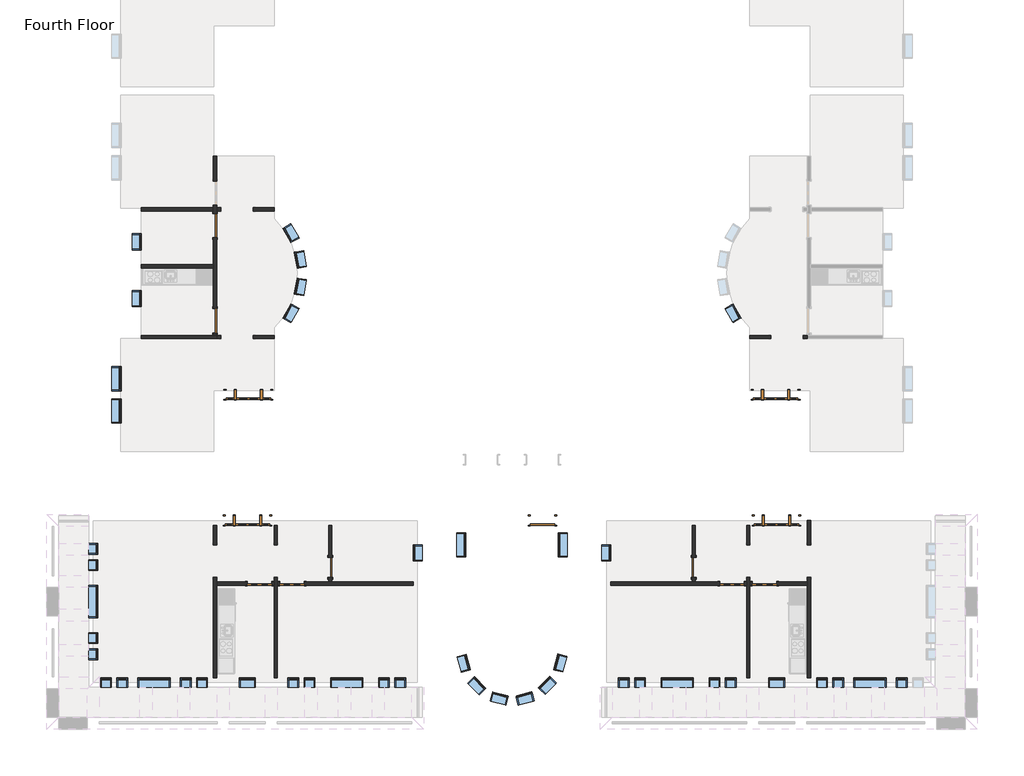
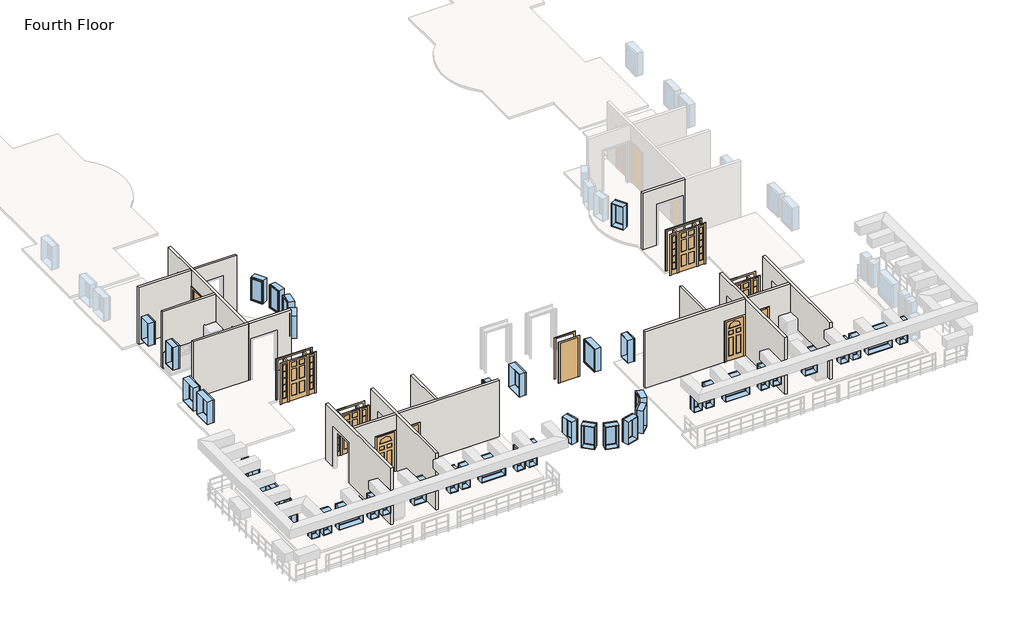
# One storey, part 1 of 5: 45 windows, 17 walls, 13 doors.
"""IFC4 building model written with IfcOpenShell, lengths in millimetres."""

from ifc_helpers import new_model, si_unit, frame, origin, place, context, project, spatial, polyline, outline, extrude, faceted_brep, transform, mapped, element, save
from components import door_829da954, door_2e3b4da2, door_4d6c7550, door_e36758a9, door_a1797ceb, door_a3eb833a, door_cc5399a4, door_dba5aa2e, door_ffdb1193, window_da97879f, window_d61ef850, window_60baf983, window_ed80354a, window_0e2fc6ce, window_6eb97611, window_d89bf842

model = new_model("IFC4")

# Units and contexts
model_context = context("Model", 3, world=origin())
ifc_project = project(units=[si_unit("LENGTHUNIT", "METRE", prefix="MILLI")], contexts=[model_context])

# Site, building, storey
site = spatial("IfcSite", under=ifc_project)
building = spatial("IfcBuilding", under=site)
storey = spatial("IfcBuildingStorey", under=building, Name="Fourth Floor", Elevation=9144.0)

# Doors
placement = place(None, origin())
door_shape = door_829da954(model_context)
element("IfcDoor", 1, ObjectType="Single-Decorative 2 : 36\" x 84\"", at=placement, inside=storey, context=model_context, shape_type="MappedRepresentation", body=[
    mapped(door_shape, transform((-6669.0589563, -30331.8808133, 9144.0), x_axis=(1.0, 0.0, 0.0), y_axis=(0.0, 1.0, 0.0), z_axis=(0.0, 0.0, 1.0))),
])
element("IfcDoor", 2, ObjectType="Single-Decorative 2 : 36\" x 84\"", at=placement, inside=storey, context=model_context, shape_type="MappedRepresentation", body=[
    mapped(door_shape, transform((-24420.4839563, -30331.8808133, 9144.0), x_axis=(1.0, 0.0, 0.0), y_axis=(0.0, 1.0, 0.0), z_axis=(0.0, 0.0, 1.0))),
])
door_2_shape = door_2e3b4da2(model_context)
element("IfcDoor", 3, ObjectType="Single-Decorative 2 : 36\" x 84\"", at=placement, inside=storey, context=model_context, shape_type="MappedRepresentation", body=[
    mapped(door_2_shape, transform((-5449.8589563, -30331.8808133, 9144.0), x_axis=(-1.0, 0.0, 0.0), y_axis=(0.0, -1.0, 0.0), z_axis=(0.0, 0.0, 1.0))),
])
element("IfcDoor", 4, ObjectType="Single-Decorative 2 : 36\" x 84\"", at=placement, inside=storey, context=model_context, shape_type="MappedRepresentation", body=[
    mapped(door_2_shape, transform((-23201.2839563, -30331.8808133, 9144.0), x_axis=(-1.0, 0.0, 0.0), y_axis=(0.0, -1.0, 0.0), z_axis=(0.0, 0.0, 1.0))),
])
door_3_shape = door_4d6c7550(model_context)
element("IfcDoor", 5, ObjectType="Single-Flush : 30\" x 84\"", at=placement, inside=storey, context=model_context, shape_type="MappedRepresentation", body=[
    mapped(door_3_shape, transform((-21764.5964563, -29722.2808133, 9144.0), x_axis=(0.0, -1.0, 0.0), y_axis=(1.0, 0.0, 0.0), z_axis=(0.0, 0.0, 1.0))),
])
door_4_shape = door_e36758a9(model_context)
element("IfcDoor", 6, ObjectType="Single-Flush : 30\" x 84\"", at=placement, inside=storey, context=model_context, shape_type="MappedRepresentation", body=[
    mapped(door_4_shape, transform((-8105.7464563, -29722.2808133, 9144.0), x_axis=(0.0, -1.0, 0.0), y_axis=(1.0, 0.0, 0.0), z_axis=(0.0, 0.0, 1.0))),
])
door_5_shape = door_a1797ceb(model_context)
element("IfcDoor", 7, ObjectType="Single-Flush : 36\" x 84\"", at=placement, inside=storey, context=model_context, shape_type="MappedRepresentation", body=[
    mapped(door_5_shape, transform((-26096.8839563, -20451.2808133, 9144.0), x_axis=(0.0, -1.0, 0.0), y_axis=(1.0, 0.0, 0.0), z_axis=(0.0, 0.0, 1.0))),
])
door_6_shape = door_a3eb833a(model_context)
element("IfcDoor", 8, ObjectType="Single-Flush : 36\" x 84\"", at=placement, inside=storey, context=model_context, shape_type="MappedRepresentation", body=[
    mapped(door_6_shape, transform((-26096.8839563, -16873.0558133, 9144.0), x_axis=(0.0, 1.0, 0.0), y_axis=(-1.0, 0.0, 0.0), z_axis=(0.0, 0.0, 1.0))),
])
door_7_shape = door_cc5399a4(model_context)
element("IfcDoor", 9, ObjectType="Single-Flush : 36\" x 84\"", at=placement, inside=storey, context=model_context, shape_type="MappedRepresentation", body=[
    mapped(door_7_shape, transform((-13792.1714563, -27958.5683133, 9144.0), x_axis=(1.0, 0.0, 0.0), y_axis=(0.0, 1.0, 0.0), z_axis=(0.0, 0.0, 1.0))),
])
door_8_shape = door_dba5aa2e(model_context)
element("IfcDoor", 10, ObjectType="Single-Raised Panel with Sidelights : 36\" x 84\"", at=placement, inside=storey, context=model_context, shape_type="MappedRepresentation", body=[
    mapped(door_8_shape, transform((-24877.6839563, -27958.5683133, 9144.0), x_axis=(1.0, 0.0, 0.0), y_axis=(0.0, 1.0, 0.0), z_axis=(0.0, 0.0, 1.0))),
])
element("IfcDoor", 11, ObjectType="Single-Raised Panel with Sidelights : 36\" x 84\"", at=placement, inside=storey, context=model_context, shape_type="MappedRepresentation", body=[
    mapped(door_8_shape, transform((-24841.1714563, -23234.1683133, 9144.0), x_axis=(1.0, 0.0, 0.0), y_axis=(0.0, 1.0, 0.0), z_axis=(0.0, 0.0, 1.0))),
])
door_9_shape = door_ffdb1193(model_context)
element("IfcDoor", 12, ObjectType="Single-Raised Panel with Sidelights : 36\" x 84\"", at=placement, inside=storey, context=model_context, shape_type="MappedRepresentation", body=[
    mapped(door_9_shape, transform((-4992.6589563, -27958.5683133, 9144.0), x_axis=(-1.0, 0.0, 0.0), y_axis=(0.0, -1.0, 0.0), z_axis=(0.0, 0.0, 1.0))),
])
element("IfcDoor", 13, ObjectType="Single-Raised Panel with Sidelights : 36\" x 84\"", at=placement, inside=storey, context=model_context, shape_type="MappedRepresentation", body=[
    mapped(door_9_shape, transform((-5029.1714563, -23234.1683133, 9144.0), x_axis=(-1.0, 0.0, 0.0), y_axis=(0.0, -1.0, 0.0), z_axis=(0.0, 0.0, 1.0))),
])

# Walls
element("IfcWall", 14, ObjectType="Interior - 5\" Partition (2-hr)", at=placement, inside=storey, context=model_context, shape_type="Brep", body=[
    faceted_brep([(-3709.9589563, -33878.3558133, 9144.0), (-3709.9589563, -30092.1683133, 9144.0), (-3709.9589563, -30092.1683133, 11277.6), (-3709.9589563, -28872.9683133, 11277.6), (-3709.9589563, -28872.9683133, 9144.0), (-3709.9589563, -27958.5683133, 9144.0), (-3709.9589563, -27958.5683133, 12192.0), (-3709.9589563, -33878.3558133, 12192.0), (-3836.9589563, -30092.1683133, 11277.6), (-3836.9589563, -30092.1683133, 9144.0), (-3836.9589563, -30268.3808133, 9144.0), (-3836.9589563, -30395.3808133, 9144.0), (-3836.9589563, -33878.3558133, 9144.0), (-3836.9589563, -33878.3558133, 12192.0), (-3836.9589563, -30395.3808133, 12192.0), (-3836.9589563, -30268.3808133, 12192.0), (-3836.9589563, -27958.5683133, 12192.0), (-3836.9589563, -27958.5683133, 9144.0), (-3836.9589563, -28872.9683133, 9144.0), (-3836.9589563, -28872.9683133, 11277.6)], [[[0, 1, 2, 3, 4, 5, 6, 7]], [[8, 9, 10, 11, 12, 13, 14, 15, 16, 17, 18, 19]], [[12, 11, 10, 9, 1, 0]], [[18, 17, 5, 4]], [[6, 5, 17, 16]], [[7, 6, 16, 15, 14, 13]], [[0, 7, 13, 12]], [[4, 3, 19, 18]], [[2, 1, 9, 8]], [[3, 2, 8, 19]]]),
])
element("IfcWall", 15, ObjectType="Interior - 5\" Partition (2-hr)", at=placement, inside=storey, context=model_context, shape_type="Brep", body=[
    faceted_brep([(-5995.9589563, -28872.9683133, 11277.6), (-5995.9589563, -28872.9683133, 9144.0), (-5995.9589563, -28134.7808133, 9144.0), (-5995.9589563, -28134.7808133, 12192.0), (-5995.9589563, -30268.3808133, 12192.0), (-5995.9589563, -30395.3808133, 12192.0), (-5995.9589563, -33878.3558133, 12192.0), (-5995.9589563, -33878.3558133, 9144.0), (-5995.9589563, -30395.3808133, 9144.0), (-5995.9589563, -30268.3808133, 9144.0), (-5995.9589563, -30092.1683133, 9144.0), (-5995.9589563, -30092.1683133, 11277.6), (-6122.9589563, -28134.7808133, 9144.0), (-6122.9589563, -28872.9683133, 9144.0), (-6122.9589563, -28872.9683133, 11277.6), (-6122.9589563, -30092.1683133, 11277.6), (-6122.9589563, -30092.1683133, 9144.0), (-6122.9589563, -30268.3808133, 9144.0), (-6122.9589563, -30395.3808133, 9144.0), (-6122.9589563, -33878.3558133, 9144.0), (-6122.9589563, -33878.3558133, 12192.0), (-6122.9589563, -30395.3808133, 12192.0), (-6122.9589563, -30268.3808133, 12192.0), (-6122.9589563, -28134.7808133, 12192.0)], [[[0, 1, 2, 3, 4, 5, 6, 7, 8, 9, 10, 11]], [[12, 13, 14, 15, 16, 17, 18, 19, 20, 21, 22, 23]], [[2, 1, 13, 12]], [[10, 9, 8, 7, 19, 18, 17, 16]], [[6, 5, 4, 3, 23, 22, 21, 20]], [[7, 6, 20, 19]], [[3, 2, 12, 23]], [[16, 15, 11, 10]], [[14, 13, 1, 0]], [[15, 14, 0, 11]]]),
])
element("IfcWall", 16, ObjectType="Interior - 5\" Partition (2-hr)", at=placement, inside=storey, context=model_context, shape_type="Brep", body=[
    faceted_brep([(-6211.8589563, -30395.3808133, 11277.6), (-6211.8589563, -30395.3808133, 9144.0), (-6122.9589563, -30395.3808133, 9144.0), (-6122.9589563, -30395.3808133, 12192.0), (-11217.2464563, -30395.3808133, 12192.0), (-11217.2464563, -30395.3808133, 9144.0), (-7126.2589563, -30395.3808133, 9144.0), (-7126.2589563, -30395.3808133, 11277.6), (-6122.9589563, -30268.3808133, 9144.0), (-6211.8589563, -30268.3808133, 9144.0), (-6211.8589563, -30268.3808133, 11277.6), (-7126.2589563, -30268.3808133, 11277.6), (-7126.2589563, -30268.3808133, 9144.0), (-8042.2464563, -30268.3808133, 9144.0), (-8169.2464563, -30268.3808133, 9144.0), (-11217.2464563, -30268.3808133, 9144.0), (-11217.2464563, -30268.3808133, 12192.0), (-8169.2464563, -30268.3808133, 12192.0), (-8042.2464563, -30268.3808133, 12192.0), (-6122.9589563, -30268.3808133, 12192.0)], [[[0, 1, 2, 3, 4, 5, 6, 7]], [[8, 9, 10, 11, 12, 13, 14, 15, 16, 17, 18, 19]], [[2, 1, 9, 8]], [[6, 5, 15, 14, 13, 12]], [[4, 3, 19, 18, 17, 16]], [[3, 2, 8, 19]], [[5, 4, 16, 15]], [[10, 9, 1, 0]], [[11, 10, 0, 7]], [[12, 11, 7, 6]]]),
])
element("IfcWall", 17, ObjectType="Interior - 5\" Partition (2-hr)", at=placement, inside=storey, context=model_context, shape_type="SweptSolid", body=[
    extrude(outline(polyline([(-30103.2808133, 11277.6), (-30103.2808133, 9144.0), (-30268.3808133, 9144.0), (-30268.3808133, 12192.0), (-28134.7808133, 12192.0), (-28134.7808133, 9144.0), (-29341.2808133, 9144.0), (-29341.2808133, 11277.6), (-30103.2808133, 11277.6)])), frame((-8169.2464563, 0.0, 0.0), z_axis=(1.0, 0.0, 0.0), x_axis=(0.0, 1.0, 0.0)), (0.0, 0.0, 1.0), 127.0),
])
element("IfcWall", 18, ObjectType="Interior - 5\" Partition (2-hr)", at=placement, inside=storey, context=model_context, shape_type="SweptSolid", body=[
    extrude(outline(polyline([(9144.0, -5995.9589563), (9144.0, -5907.0589563), (11277.6, -5907.0589563), (11277.6, -4992.6589563), (9144.0, -4992.6589563), (9144.0, -3836.9589563), (12192.0, -3836.9589563), (12192.0, -5995.9589563), (9144.0, -5995.9589563)])), frame((0.0, -30395.3808133, 0.0), z_axis=(0.0, 1.0, 0.0), x_axis=(0.0, 0.0, 1.0)), (0.0, 0.0, 1.0), 127.0),
])
element("IfcWall", 19, ObjectType="Interior - 5\" Partition (2-hr)", at=placement, inside=storey, context=model_context, shape_type="SweptSolid", body=[
    extrude(outline(polyline([(11277.6, -4002.0589563), (9144.0, -4002.0589563), (9144.0, -3836.9589563), (12192.0, -3836.9589563), (12192.0, -5995.9589563), (9144.0, -5995.9589563), (9144.0, -5221.2589563), (11277.6, -5221.2589563), (11277.6, -4002.0589563)])), frame((0.0, -21124.3808133, 0.0), z_axis=(0.0, 1.0, 0.0), x_axis=(0.0, 0.0, 1.0)), (0.0, 0.0, 1.0), 127.0),
])
element("IfcWall", 20, ObjectType="Interior - 5\" Partition (2-hr)", at=placement, inside=storey, context=model_context, shape_type="Brep", body=[
    faceted_brep([(-26033.3839563, -33878.3558133, 9144.0), (-26033.3839563, -30395.3808133, 9144.0), (-26033.3839563, -30268.3808133, 9144.0), (-26033.3839563, -30092.1683133, 9144.0), (-26033.3839563, -30092.1683133, 11277.6), (-26033.3839563, -28872.9683133, 11277.6), (-26033.3839563, -28872.9683133, 9144.0), (-26033.3839563, -28134.7808133, 9144.0), (-26033.3839563, -28134.7808133, 12192.0), (-26033.3839563, -30268.3808133, 12192.0), (-26033.3839563, -30395.3808133, 12192.0), (-26033.3839563, -33878.3558133, 12192.0), (-26160.3839563, -30092.1683133, 11277.6), (-26160.3839563, -30092.1683133, 9144.0), (-26160.3839563, -33878.3558133, 9144.0), (-26160.3839563, -33878.3558133, 12192.0), (-26160.3839563, -28134.7808133, 12192.0), (-26160.3839563, -28134.7808133, 9144.0), (-26160.3839563, -28872.9683133, 9144.0), (-26160.3839563, -28872.9683133, 11277.6)], [[[0, 1, 2, 3, 4, 5, 6, 7, 8, 9, 10, 11]], [[12, 13, 14, 15, 16, 17, 18, 19]], [[14, 13, 3, 2, 1, 0]], [[18, 17, 7, 6]], [[11, 10, 9, 8, 16, 15]], [[0, 11, 15, 14]], [[8, 7, 17, 16]], [[6, 5, 19, 18]], [[4, 3, 13, 12]], [[5, 4, 12, 19]]]),
])
element("IfcWall", 21, ObjectType="Interior - 5\" Partition (2-hr)", at=placement, inside=storey, context=model_context, shape_type="Brep", body=[
    faceted_brep([(-23747.3839563, -28872.9683133, 11277.6), (-23747.3839563, -28872.9683133, 9144.0), (-23747.3839563, -28134.7808133, 9144.0), (-23747.3839563, -28134.7808133, 12192.0), (-23747.3839563, -30268.3808133, 12192.0), (-23747.3839563, -30395.3808133, 12192.0), (-23747.3839563, -33878.3558133, 12192.0), (-23747.3839563, -33878.3558133, 9144.0), (-23747.3839563, -30395.3808133, 9144.0), (-23747.3839563, -30268.3808133, 9144.0), (-23747.3839563, -30092.1683133, 9144.0), (-23747.3839563, -30092.1683133, 11277.6), (-23874.3839563, -28134.7808133, 9144.0), (-23874.3839563, -28872.9683133, 9144.0), (-23874.3839563, -28872.9683133, 11277.6), (-23874.3839563, -30092.1683133, 11277.6), (-23874.3839563, -30092.1683133, 9144.0), (-23874.3839563, -30268.3808133, 9144.0), (-23874.3839563, -30395.3808133, 9144.0), (-23874.3839563, -33878.3558133, 9144.0), (-23874.3839563, -33878.3558133, 12192.0), (-23874.3839563, -30395.3808133, 12192.0), (-23874.3839563, -30268.3808133, 12192.0), (-23874.3839563, -28134.7808133, 12192.0)], [[[0, 1, 2, 3, 4, 5, 6, 7, 8, 9, 10, 11]], [[12, 13, 14, 15, 16, 17, 18, 19, 20, 21, 22, 23]], [[2, 1, 13, 12]], [[10, 9, 8, 7, 19, 18, 17, 16]], [[6, 5, 4, 3, 23, 22, 21, 20]], [[7, 6, 20, 19]], [[3, 2, 12, 23]], [[16, 15, 11, 10]], [[14, 13, 1, 0]], [[15, 14, 0, 11]]]),
])
element("IfcWall", 22, ObjectType="Interior - 5\" Partition (2-hr)", at=placement, inside=storey, context=model_context, shape_type="Brep", body=[
    faceted_brep([(-23658.4839563, -30268.3808133, 11277.6), (-23658.4839563, -30268.3808133, 9144.0), (-23747.3839563, -30268.3808133, 9144.0), (-23747.3839563, -30268.3808133, 12192.0), (-21828.0964563, -30268.3808133, 12192.0), (-21701.0964563, -30268.3808133, 12192.0), (-18653.0964563, -30268.3808133, 12192.0), (-18653.0964563, -30268.3808133, 9144.0), (-21701.0964563, -30268.3808133, 9144.0), (-21828.0964563, -30268.3808133, 9144.0), (-22744.0839563, -30268.3808133, 9144.0), (-22744.0839563, -30268.3808133, 11277.6), (-23747.3839563, -30395.3808133, 9144.0), (-23658.4839563, -30395.3808133, 9144.0), (-23658.4839563, -30395.3808133, 11277.6), (-22744.0839563, -30395.3808133, 11277.6), (-22744.0839563, -30395.3808133, 9144.0), (-18653.0964563, -30395.3808133, 9144.0), (-18653.0964563, -30395.3808133, 12192.0), (-23747.3839563, -30395.3808133, 12192.0)], [[[0, 1, 2, 3, 4, 5, 6, 7, 8, 9, 10, 11]], [[12, 13, 14, 15, 16, 17, 18, 19]], [[2, 1, 13, 12]], [[10, 9, 8, 7, 17, 16]], [[6, 5, 4, 3, 19, 18]], [[3, 2, 12, 19]], [[7, 6, 18, 17]], [[14, 13, 1, 0]], [[15, 14, 0, 11]], [[16, 15, 11, 10]]]),
])
element("IfcWall", 23, ObjectType="Interior - 5\" Partition (2-hr)", at=placement, inside=storey, context=model_context, shape_type="SweptSolid", body=[
    extrude(outline(polyline([(-30103.2808133, 11277.6), (-30103.2808133, 9144.0), (-30268.3808133, 9144.0), (-30268.3808133, 12192.0), (-28134.7808133, 12192.0), (-28134.7808133, 9144.0), (-29341.2808133, 9144.0), (-29341.2808133, 11277.6), (-30103.2808133, 11277.6)])), frame((-21828.0964563, 0.0, 0.0), z_axis=(1.0, 0.0, 0.0), x_axis=(0.0, 1.0, 0.0)), (0.0, 0.0, 1.0), 127.0),
])
element("IfcWall", 24, ObjectType="Interior - 5\" Partition (2-hr)", at=placement, inside=storey, context=model_context, shape_type="SweptSolid", body=[
    extrude(outline(polyline([(11277.6, -23963.2839563), (9144.0, -23963.2839563), (9144.0, -23874.3839563), (12192.0, -23874.3839563), (12192.0, -26033.3839563), (9144.0, -26033.3839563), (9144.0, -24877.6839563), (11277.6, -24877.6839563), (11277.6, -23963.2839563)])), frame((0.0, -30395.3808133, 0.0), z_axis=(0.0, 1.0, 0.0), x_axis=(0.0, 0.0, 1.0)), (0.0, 0.0, 1.0), 127.0),
])
element("IfcWall", 25, ObjectType="Interior - 5\" Partition (2-hr)", at=placement, inside=storey, context=model_context, shape_type="Brep", body=[
    faceted_brep([(-28855.9589563, -21124.3808133, 9144.0), (-26033.3839563, -21124.3808133, 9144.0), (-26033.3839563, -21124.3808133, 12192.0), (-28855.9589563, -21124.3808133, 12192.0), (-28855.9589563, -20997.3808133, 9144.0), (-28855.9589563, -20997.3808133, 12192.0), (-26160.3839563, -20997.3808133, 12192.0), (-26033.3839563, -20997.3808133, 12192.0), (-26033.3839563, -20997.3808133, 9144.0), (-26160.3839563, -20997.3808133, 9144.0)], [[[0, 1, 2, 3]], [[4, 5, 6, 7, 8, 9]], [[1, 0, 4, 9, 8]], [[3, 2, 7, 6, 5]], [[2, 1, 8, 7]], [[0, 3, 5, 4]]]),
])
element("IfcWall", 26, ObjectType="Interior - 5\" Partition (2-hr)", at=placement, inside=storey, context=model_context, shape_type="Brep", body=[
    faceted_brep([(-26160.3839563, -16111.0558133, 11277.6), (-26160.3839563, -16111.0558133, 9144.0), (-26160.3839563, -16199.9558133, 9144.0), (-26160.3839563, -16326.9558133, 9144.0), (-26160.3839563, -16415.8558133, 9144.0), (-26160.3839563, -16415.8558133, 11277.6), (-26160.3839563, -17330.2558133, 11277.6), (-26160.3839563, -17330.2558133, 9144.0), (-26160.3839563, -18333.5558133, 9144.0), (-26160.3839563, -18460.5558133, 9144.0), (-26160.3839563, -19994.0808133, 9144.0), (-26160.3839563, -19994.0808133, 11277.6), (-26160.3839563, -20908.4808133, 11277.6), (-26160.3839563, -20908.4808133, 9144.0), (-26160.3839563, -20997.3808133, 9144.0), (-26160.3839563, -20997.3808133, 12192.0), (-26160.3839563, -18460.5558133, 12192.0), (-26160.3839563, -18333.5558133, 12192.0), (-26160.3839563, -16326.9558133, 12192.0), (-26160.3839563, -16199.9558133, 12192.0), (-26160.3839563, -14266.3808133, 12192.0), (-26160.3839563, -14266.3808133, 9144.0), (-26160.3839563, -15196.6558133, 9144.0), (-26160.3839563, -15196.6558133, 11277.6), (-26033.3839563, -16415.8558133, 9144.0), (-26033.3839563, -16326.9558133, 9144.0), (-26033.3839563, -16199.9558133, 9144.0), (-26033.3839563, -16111.0558133, 9144.0), (-26033.3839563, -16111.0558133, 11277.6), (-26033.3839563, -15196.6558133, 11277.6), (-26033.3839563, -15196.6558133, 9144.0), (-26033.3839563, -14266.3808133, 9144.0), (-26033.3839563, -14266.3808133, 12192.0), (-26033.3839563, -16199.9558133, 12192.0), (-26033.3839563, -16326.9558133, 12192.0), (-26033.3839563, -20997.3808133, 12192.0), (-26033.3839563, -20997.3808133, 9144.0), (-26033.3839563, -20908.4808133, 9144.0), (-26033.3839563, -20908.4808133, 11277.6), (-26033.3839563, -19994.0808133, 11277.6), (-26033.3839563, -19994.0808133, 9144.0), (-26033.3839563, -17330.2558133, 9144.0), (-26033.3839563, -17330.2558133, 11277.6), (-26033.3839563, -16415.8558133, 11277.6)], [[[0, 1, 2, 3, 4, 5, 6, 7, 8, 9, 10, 11, 12, 13, 14, 15, 16, 17, 18, 19, 20, 21, 22, 23]], [[24, 25, 26, 27, 28, 29, 30, 31, 32, 33, 34, 35, 36, 37, 38, 39, 40, 41, 42, 43]], [[14, 13, 37, 36]], [[4, 3, 2, 1, 27, 26, 25, 24]], [[41, 40, 10, 9, 8, 7]], [[22, 21, 31, 30]], [[20, 19, 18, 17, 16, 15, 35, 34, 33, 32]], [[15, 14, 36, 35]], [[21, 20, 32, 31]], [[38, 37, 13, 12]], [[39, 38, 12, 11]], [[40, 39, 11, 10]], [[5, 4, 24, 43]], [[6, 5, 43, 42]], [[7, 6, 42, 41]], [[28, 27, 1, 0]], [[29, 28, 0, 23]], [[30, 29, 23, 22]]]),
])
element("IfcWall", 27, ObjectType="Interior - 5\" Partition (2-hr)", at=placement, inside=storey, context=model_context, shape_type="SweptSolid", body=[
    extrude(outline(polyline([(-26160.3839563, -16326.9558133), (-28855.9589563, -16326.9558133), (-28855.9589563, -16199.9558133), (-26160.3839563, -16199.9558133), (-26160.3839563, -16326.9558133)])), frame((0.0, 0.0, 9144.0), z_axis=(0.0, 0.0, 1.0), x_axis=(1.0, 0.0, 0.0)), (0.0, 0.0, 1.0), 3048.0),
])
element("IfcWall", 28, ObjectType="Interior - 5\" Partition (2-hr)", at=placement, inside=storey, context=model_context, shape_type="SweptSolid", body=[
    extrude(outline(polyline([(-28855.9589563, -18333.5558133), (-26160.3839563, -18333.5558133), (-26160.3839563, -18460.5558133), (-28855.9589563, -18460.5558133), (-28855.9589563, -18333.5558133)])), frame((0.0, 0.0, 9144.0), z_axis=(0.0, 0.0, 1.0), x_axis=(1.0, 0.0, 0.0)), (0.0, 0.0, 1.0), 3048.0),
])
element("IfcWall", 29, ObjectType="Interior - 5\" Partition (2-hr)", at=placement, inside=storey, context=model_context, shape_type="SweptSolid", body=[
    extrude(outline(polyline([(11277.6, -24649.0839563), (9144.0, -24649.0839563), (9144.0, -23874.3839563), (12192.0, -23874.3839563), (12192.0, -26033.3839563), (9144.0, -26033.3839563), (9144.0, -25868.2839563), (11277.6, -25868.2839563), (11277.6, -24649.0839563)])), frame((0.0, -16326.9558133, 0.0), z_axis=(0.0, 1.0, 0.0), x_axis=(0.0, 0.0, 1.0)), (0.0, 0.0, 1.0), 127.0),
])
element("IfcWall", 30, ObjectType="Interior - 5\" Partition (2-hr)", at=placement, inside=storey, context=model_context, shape_type="SweptSolid", body=[
    extrude(outline(polyline([(9144.0, -26033.3839563), (9144.0, -25868.2839563), (11277.6, -25868.2839563), (11277.6, -24649.0839563), (9144.0, -24649.0839563), (9144.0, -23874.3839563), (12192.0, -23874.3839563), (12192.0, -26033.3839563), (9144.0, -26033.3839563)])), frame((0.0, -21124.3808133, 0.0), z_axis=(0.0, 1.0, 0.0), x_axis=(0.0, 0.0, 1.0)), (0.0, 0.0, 1.0), 127.0),
])

# Windows
window_shape = window_da97879f(model_context)
element("IfcWindow", 31, ObjectType="Fixed : 16\" x 48\"", at=placement, inside=storey, context=model_context, shape_type="MappedRepresentation", body=[
    mapped(window_shape, transform((-6681.7589563, -34054.5683133, 9144.0), x_axis=(1.0, 0.0, 0.0), y_axis=(0.0, 1.0, 0.0), z_axis=(0.0, 0.0, 1.0))),
])
element("IfcWindow", 32, ObjectType="Fixed : 16\" x 48\"", at=placement, inside=storey, context=model_context, shape_type="MappedRepresentation", body=[
    mapped(window_shape, transform((-7291.3589563, -34054.5683133, 9144.0), x_axis=(1.0, 0.0, 0.0), y_axis=(0.0, 1.0, 0.0), z_axis=(0.0, 0.0, 1.0))),
])
element("IfcWindow", 33, ObjectType="Fixed : 16\" x 48\"", at=placement, inside=storey, context=model_context, shape_type="MappedRepresentation", body=[
    mapped(window_shape, transform((-255.5589563, -34054.5683133, 9144.0), x_axis=(1.0, 0.0, 0.0), y_axis=(0.0, 1.0, 0.0), z_axis=(0.0, 0.0, 1.0))),
])
element("IfcWindow", 34, ObjectType="Fixed : 16\" x 48\"", at=placement, inside=storey, context=model_context, shape_type="MappedRepresentation", body=[
    mapped(window_shape, transform((-19099.1839563, -34054.5683133, 9144.0), x_axis=(1.0, 0.0, 0.0), y_axis=(0.0, 1.0, 0.0), z_axis=(0.0, 0.0, 1.0))),
])
element("IfcWindow", 35, ObjectType="Fixed : 16\" x 48\"", at=placement, inside=storey, context=model_context, shape_type="MappedRepresentation", body=[
    mapped(window_shape, transform((-19708.7839563, -34054.5683133, 9144.0), x_axis=(1.0, 0.0, 0.0), y_axis=(0.0, 1.0, 0.0), z_axis=(0.0, 0.0, 1.0))),
])
element("IfcWindow", 36, ObjectType="Fixed : 16\" x 48\"", at=placement, inside=storey, context=model_context, shape_type="MappedRepresentation", body=[
    mapped(window_shape, transform((-26541.3839563, -34054.5683133, 9144.0), x_axis=(1.0, 0.0, 0.0), y_axis=(0.0, 1.0, 0.0), z_axis=(0.0, 0.0, 1.0))),
])
element("IfcWindow", 37, ObjectType="Fixed : 16\" x 48\"", at=placement, inside=storey, context=model_context, shape_type="MappedRepresentation", body=[
    mapped(window_shape, transform((-27150.9839563, -34054.5683133, 9144.0), x_axis=(1.0, 0.0, 0.0), y_axis=(0.0, 1.0, 0.0), z_axis=(0.0, 0.0, 1.0))),
])
element("IfcWindow", 38, ObjectType="Fixed : 16\" x 48\"", at=placement, inside=storey, context=model_context, shape_type="MappedRepresentation", body=[
    mapped(window_shape, transform((-30668.8839563, -33025.8683133, 9144.0), x_axis=(0.0, -1.0, 0.0), y_axis=(1.0, 0.0, 0.0), z_axis=(0.0, 0.0, 1.0))),
])
element("IfcWindow", 39, ObjectType="Fixed : 16\" x 48\"", at=placement, inside=storey, context=model_context, shape_type="MappedRepresentation", body=[
    mapped(window_shape, transform((-30668.8839563, -32416.2683133, 9144.0), x_axis=(0.0, -1.0, 0.0), y_axis=(1.0, 0.0, 0.0), z_axis=(0.0, 0.0, 1.0))),
])
window_2_shape = window_d61ef850(model_context)
element("IfcWindow", 40, ObjectType="Fixed : 16\" x 48\"", at=placement, inside=storey, context=model_context, shape_type="MappedRepresentation", body=[
    mapped(window_2_shape, transform((-10771.1589563, -34054.5683133, 9144.0), x_axis=(-1.0, 0.0, 0.0), y_axis=(0.0, -1.0, 0.0), z_axis=(0.0, 0.0, 1.0))),
])
element("IfcWindow", 41, ObjectType="Fixed : 16\" x 48\"", at=placement, inside=storey, context=model_context, shape_type="MappedRepresentation", body=[
    mapped(window_2_shape, transform((-10161.5589563, -34054.5683133, 9144.0), x_axis=(-1.0, 0.0, 0.0), y_axis=(0.0, -1.0, 0.0), z_axis=(0.0, 0.0, 1.0))),
])
element("IfcWindow", 42, ObjectType="Fixed : 16\" x 48\"", at=placement, inside=storey, context=model_context, shape_type="MappedRepresentation", body=[
    mapped(window_2_shape, transform((-3328.9589563, -34054.5683133, 9144.0), x_axis=(-1.0, 0.0, 0.0), y_axis=(0.0, -1.0, 0.0), z_axis=(0.0, 0.0, 1.0))),
])
element("IfcWindow", 43, ObjectType="Fixed : 16\" x 48\"", at=placement, inside=storey, context=model_context, shape_type="MappedRepresentation", body=[
    mapped(window_2_shape, transform((-2719.3589563, -34054.5683133, 9144.0), x_axis=(-1.0, 0.0, 0.0), y_axis=(0.0, -1.0, 0.0), z_axis=(0.0, 0.0, 1.0))),
])
element("IfcWindow", 44, ObjectType="Fixed : 16\" x 48\"", at=placement, inside=storey, context=model_context, shape_type="MappedRepresentation", body=[
    mapped(window_2_shape, transform((-23188.5839563, -34054.5683133, 9144.0), x_axis=(-1.0, 0.0, 0.0), y_axis=(0.0, -1.0, 0.0), z_axis=(0.0, 0.0, 1.0))),
])
element("IfcWindow", 45, ObjectType="Fixed : 16\" x 48\"", at=placement, inside=storey, context=model_context, shape_type="MappedRepresentation", body=[
    mapped(window_2_shape, transform((-22578.9839563, -34054.5683133, 9144.0), x_axis=(-1.0, 0.0, 0.0), y_axis=(0.0, -1.0, 0.0), z_axis=(0.0, 0.0, 1.0))),
])
element("IfcWindow", 46, ObjectType="Fixed : 16\" x 48\"", at=placement, inside=storey, context=model_context, shape_type="MappedRepresentation", body=[
    mapped(window_2_shape, transform((-30224.3839563, -34054.5683133, 9144.0), x_axis=(-1.0, 0.0, 0.0), y_axis=(0.0, -1.0, 0.0), z_axis=(0.0, 0.0, 1.0))),
])
element("IfcWindow", 47, ObjectType="Fixed : 16\" x 48\"", at=placement, inside=storey, context=model_context, shape_type="MappedRepresentation", body=[
    mapped(window_2_shape, transform((-29614.7839563, -34054.5683133, 9144.0), x_axis=(-1.0, 0.0, 0.0), y_axis=(0.0, -1.0, 0.0), z_axis=(0.0, 0.0, 1.0))),
])
element("IfcWindow", 48, ObjectType="Fixed : 16\" x 48\"", at=placement, inside=storey, context=model_context, shape_type="MappedRepresentation", body=[
    mapped(window_2_shape, transform((-30668.8839563, -28987.2683133, 9144.0), x_axis=(0.0, 1.0, 0.0), y_axis=(-1.0, 0.0, 0.0), z_axis=(0.0, 0.0, 1.0))),
])
element("IfcWindow", 49, ObjectType="Fixed : 16\" x 48\"", at=placement, inside=storey, context=model_context, shape_type="MappedRepresentation", body=[
    mapped(window_2_shape, transform((-30668.8839563, -29596.8683133, 9144.0), x_axis=(0.0, 1.0, 0.0), y_axis=(-1.0, 0.0, 0.0), z_axis=(0.0, 0.0, 1.0))),
])
window_3_shape = window_60baf983(model_context)
element("IfcWindow", 50, ObjectType="Fixed : 24\" x 48\"", at=placement, inside=storey, context=model_context, shape_type="MappedRepresentation", body=[
    mapped(window_3_shape, transform((-24839.5839563, -34054.5683133, 9144.0), x_axis=(1.0, 0.0, 0.0), y_axis=(0.0, 1.0, 0.0), z_axis=(0.0, 0.0, 1.0))),
])
element("IfcWindow", 51, ObjectType="Fixed : 24\" x 48\"", at=placement, inside=storey, context=model_context, shape_type="MappedRepresentation", body=[
    mapped(window_3_shape, transform((-18476.8839563, -29139.6683133, 9144.0), x_axis=(0.0, 1.0, 0.0), y_axis=(-1.0, 0.0, 0.0), z_axis=(0.0, 0.0, 1.0))),
])
element("IfcWindow", 52, ObjectType="Fixed : 24\" x 48\"", at=placement, inside=storey, context=model_context, shape_type="MappedRepresentation", body=[
    mapped(window_3_shape, transform((-23222.1961911, -20134.3150929, 9144.0), x_axis=(0.49619108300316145, 0.8682133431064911, 0.0), y_axis=(-0.8682133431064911, 0.49619108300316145, 0.0), z_axis=(0.0, 0.0, 1.0))),
])
element("IfcWindow", 53, ObjectType="Fixed : 24\" x 48\"", at=placement, inside=storey, context=model_context, shape_type="MappedRepresentation", body=[
    mapped(window_3_shape, transform((-22878.8677992, -19139.5143296, 9144.0), x_axis=(0.16973229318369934, 0.9854902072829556, 0.0), y_axis=(-0.9854902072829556, 0.16973229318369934, 0.0), z_axis=(0.0, 0.0, 1.0))),
])
window_4_shape = window_ed80354a(model_context)
element("IfcWindow", 54, ObjectType="Fixed : 24\" x 48\"", at=placement, inside=storey, context=model_context, shape_type="MappedRepresentation", body=[
    mapped(window_4_shape, transform((-5030.7589563, -34054.5683133, 9144.0), x_axis=(-1.0, 0.0, 0.0), y_axis=(0.0, -1.0, 0.0), z_axis=(0.0, 0.0, 1.0))),
])
element("IfcWindow", 55, ObjectType="Fixed : 24\" x 48\"", at=placement, inside=storey, context=model_context, shape_type="MappedRepresentation", body=[
    mapped(window_4_shape, transform((-11393.4589563, -29139.6683133, 9144.0), x_axis=(0.0, 1.0, 0.0), y_axis=(-1.0, 0.0, 0.0), z_axis=(0.0, 0.0, 1.0))),
])
element("IfcWindow", 56, ObjectType="Fixed : 24\" x 48\"", at=placement, inside=storey, context=model_context, shape_type="MappedRepresentation", body=[
    mapped(window_4_shape, transform((-16757.5848795, -33290.1635131, 9144.0), x_axis=(-0.2617614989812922, 0.9651325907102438, 0.0), y_axis=(-0.9651325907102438, -0.2617614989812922, 0.0), z_axis=(0.0, 0.0, 1.0))),
])
element("IfcWindow", 57, ObjectType="Fixed : 24\" x 48\"", at=placement, inside=storey, context=model_context, shape_type="MappedRepresentation", body=[
    mapped(window_4_shape, transform((-16286.0301771, -34140.4392215, 9144.0), x_axis=(-0.7092584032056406, 0.7049485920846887, 0.0), y_axis=(-0.7049485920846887, -0.7092584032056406, 0.0), z_axis=(0.0, 0.0, 1.0))),
])
element("IfcWindow", 58, ObjectType="Fixed : 24\" x 48\"", at=placement, inside=storey, context=model_context, shape_type="MappedRepresentation", body=[
    mapped(window_4_shape, transform((-15452.5139714, -34641.0222339, 9144.0), x_axis=(-0.9667100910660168, 0.25587418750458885, 0.0), y_axis=(-0.25587418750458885, -0.9667100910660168, 0.0), z_axis=(0.0, 0.0, 1.0))),
])
element("IfcWindow", 59, ObjectType="Fixed : 24\" x 48\"", at=placement, inside=storey, context=model_context, shape_type="MappedRepresentation", body=[
    mapped(window_4_shape, transform((-14480.3762565, -34657.7817365, 9144.0), x_axis=(-0.9651325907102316, -0.26176149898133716, 0.0), y_axis=(0.26176149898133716, -0.9651325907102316, 0.0), z_axis=(0.0, 0.0, 1.0))),
])
element("IfcWindow", 60, ObjectType="Fixed : 24\" x 48\"", at=placement, inside=storey, context=model_context, shape_type="MappedRepresentation", body=[
    mapped(window_4_shape, transform((-13630.1005482, -34186.2270341, 9144.0), x_axis=(-0.7049485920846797, -0.7092584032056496, 0.0), y_axis=(0.7092584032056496, -0.7049485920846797, 0.0), z_axis=(0.0, 0.0, 1.0))),
])
element("IfcWindow", 61, ObjectType="Fixed : 24\" x 48\"", at=placement, inside=storey, context=model_context, shape_type="MappedRepresentation", body=[
    mapped(window_4_shape, transform((-13129.5175357, -33352.7108284, 9144.0), x_axis=(-0.2558741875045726, -0.9667100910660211, 0.0), y_axis=(0.9667100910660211, -0.2558741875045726, 0.0), z_axis=(0.0, 0.0, 1.0))),
])
element("IfcWindow", 62, ObjectType="Fixed : 24\" x 48\"", at=placement, inside=storey, context=model_context, shape_type="MappedRepresentation", body=[
    mapped(window_4_shape, transform((-6646.5999888, -20133.4311225, 9144.0), x_axis=(-0.4961910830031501, 0.8682133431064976, 0.0), y_axis=(-0.8682133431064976, -0.4961910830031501, 0.0), z_axis=(0.0, 0.0, 1.0))),
])
element("IfcWindow", 63, ObjectType="Fixed : 24\" x 48\"", at=placement, inside=storey, context=model_context, shape_type="MappedRepresentation", body=[
    mapped(window_4_shape, transform((-29032.1714563, -19578.1558133, 9144.0), x_axis=(0.0, 1.0, 0.0), y_axis=(-1.0, 0.0, 0.0), z_axis=(0.0, 0.0, 1.0))),
])
element("IfcWindow", 64, ObjectType="Fixed : 24\" x 48\"", at=placement, inside=storey, context=model_context, shape_type="MappedRepresentation", body=[
    mapped(window_4_shape, transform((-29032.1714563, -17444.5558133, 9144.0), x_axis=(0.0, 1.0, 0.0), y_axis=(-1.0, 0.0, 0.0), z_axis=(0.0, 0.0, 1.0))),
])
element("IfcWindow", 65, ObjectType="Fixed : 24\" x 48\"", at=placement, inside=storey, context=model_context, shape_type="MappedRepresentation", body=[
    mapped(window_4_shape, transform((-23222.1961911, -17190.0215337, 9144.0), x_axis=(0.4961910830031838, -0.8682133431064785, 0.0), y_axis=(0.8682133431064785, 0.4961910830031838, 0.0), z_axis=(0.0, 0.0, 1.0))),
])
element("IfcWindow", 66, ObjectType="Fixed : 24\" x 48\"", at=placement, inside=storey, context=model_context, shape_type="MappedRepresentation", body=[
    mapped(window_4_shape, transform((-22878.8677992, -18184.822297, 9144.0), x_axis=(0.16973229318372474, -0.9854902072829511, 0.0), y_axis=(0.9854902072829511, 0.16973229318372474, 0.0), z_axis=(0.0, 0.0, 1.0))),
])
window_5_shape = window_0e2fc6ce(model_context)
element("IfcWindow", 67, ObjectType="Fixed : 36\" x 48\"", at=placement, inside=storey, context=model_context, shape_type="MappedRepresentation", body=[
    mapped(window_5_shape, transform((-16840.1714563, -28834.8683133, 9144.0), x_axis=(0.0, 1.0, 0.0), y_axis=(-1.0, 0.0, 0.0), z_axis=(0.0, 0.0, 1.0))),
])
element("IfcWindow", 68, ObjectType="Fixed : 36\" x 48\"", at=placement, inside=storey, context=model_context, shape_type="MappedRepresentation", body=[
    mapped(window_5_shape, transform((-13030.1714563, -28911.0683133, 9144.0), x_axis=(0.0, -1.0, 0.0), y_axis=(1.0, 0.0, 0.0), z_axis=(0.0, 0.0, 1.0))),
])
element("IfcWindow", 69, ObjectType="Fixed : 36\" x 48\"", at=placement, inside=storey, context=model_context, shape_type="MappedRepresentation", body=[
    mapped(window_5_shape, transform((-29794.1714563, -23805.6683133, 9144.0), x_axis=(0.0, 1.0, 0.0), y_axis=(-1.0, 0.0, 0.0), z_axis=(0.0, 0.0, 1.0))),
])
element("IfcWindow", 70, ObjectType="Fixed : 36\" x 48\"", at=placement, inside=storey, context=model_context, shape_type="MappedRepresentation", body=[
    mapped(window_5_shape, transform((-29794.1714563, -22586.4683133, 9144.0), x_axis=(0.0, 1.0, 0.0), y_axis=(-1.0, 0.0, 0.0), z_axis=(0.0, 0.0, 1.0))),
])
window_6_shape = window_6eb97611(model_context)
element("IfcWindow", 71, ObjectType="Fixed : 48\" x 48\"", at=placement, inside=storey, context=model_context, shape_type="MappedRepresentation", body=[
    mapped(window_6_shape, transform((-21105.7839563, -34054.5683133, 9144.0), x_axis=(1.0, 0.0, 0.0), y_axis=(0.0, 1.0, 0.0), z_axis=(0.0, 0.0, 1.0))),
])
element("IfcWindow", 72, ObjectType="Fixed : 48\" x 48\"", at=placement, inside=storey, context=model_context, shape_type="MappedRepresentation", body=[
    mapped(window_6_shape, transform((-28344.7839563, -34054.5683133, 9144.0), x_axis=(1.0, 0.0, 0.0), y_axis=(0.0, 1.0, 0.0), z_axis=(0.0, 0.0, 1.0))),
])
element("IfcWindow", 73, ObjectType="Fixed : 48\" x 48\"", at=placement, inside=storey, context=model_context, shape_type="MappedRepresentation", body=[
    mapped(window_6_shape, transform((-30668.8839563, -31044.6683133, 9144.0), x_axis=(0.0, -1.0, 0.0), y_axis=(1.0, 0.0, 0.0), z_axis=(0.0, 0.0, 1.0))),
])
window_7_shape = window_d89bf842(model_context)
element("IfcWindow", 74, ObjectType="Fixed : 48\" x 48\"", at=placement, inside=storey, context=model_context, shape_type="MappedRepresentation", body=[
    mapped(window_7_shape, transform((-8764.5589563, -34054.5683133, 9144.0), x_axis=(-1.0, 0.0, 0.0), y_axis=(0.0, -1.0, 0.0), z_axis=(0.0, 0.0, 1.0))),
])
element("IfcWindow", 75, ObjectType="Fixed : 48\" x 48\"", at=placement, inside=storey, context=model_context, shape_type="MappedRepresentation", body=[
    mapped(window_7_shape, transform((-1525.5589563, -34054.5683133, 9144.0), x_axis=(-1.0, 0.0, 0.0), y_axis=(0.0, -1.0, 0.0), z_axis=(0.0, 0.0, 1.0))),
])

save(model, "model.ifc")
